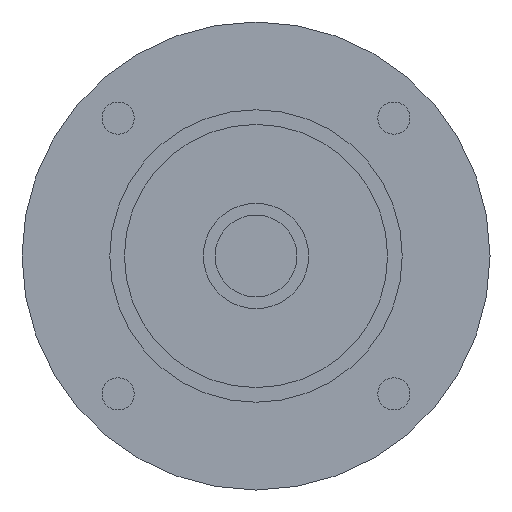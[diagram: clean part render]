
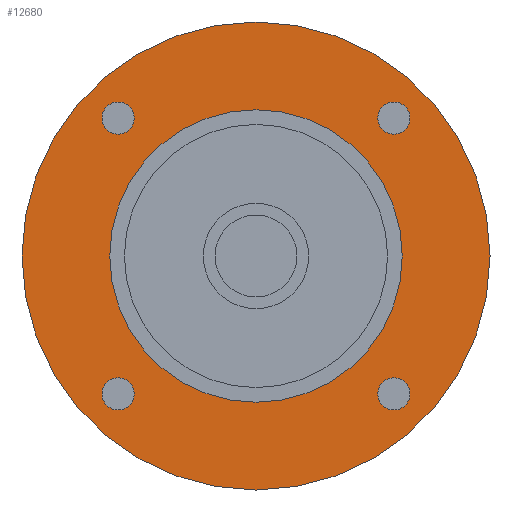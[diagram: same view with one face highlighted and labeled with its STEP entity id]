
A CAD part, left-side view. The second image highlights one B-rep face of the part: STEP entity #12680.
In plain terms, the highlighted planar face has unit normal (-1, 0, 0) as drawn and (0, 0, -1) by its records, which use the part's own axes.
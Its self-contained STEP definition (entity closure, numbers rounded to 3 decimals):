
#9250=CARTESIAN_POINT('',(23.571,-26.321,-42.2));
#9260=VERTEX_POINT('',#9250);
#9290=CARTESIAN_POINT('',(23.571,-23.571,-42.2));
#9300=DIRECTION('',(0.,0.,1.));
#9310=DIRECTION('',(0.,-1.,0.));
#9320=AXIS2_PLACEMENT_3D('',#9290,#9300,#9310);
#9330=CIRCLE('',#9320,2.75);
#9340=CARTESIAN_POINT('',(23.571,-20.821,-42.2));
#9350=VERTEX_POINT('',#9340);
#9360=EDGE_CURVE('',#9260,#9350,#9330,.T.);
#11700=CARTESIAN_POINT('',(-40.,0.,-42.2));
#11710=VERTEX_POINT('',#11700);
#11740=CARTESIAN_POINT('',(0.,0.,
-42.2));
#11750=DIRECTION('',(0.,0.,-1.));
#11760=DIRECTION('',(1.,0.,0.));
#11770=AXIS2_PLACEMENT_3D('',#11740,#11750,#11760);
#11780=CIRCLE('',#11770,40.);
#11790=CARTESIAN_POINT('',(40.,0.,-42.2));
#11800=VERTEX_POINT('',#11790);
#11810=EDGE_CURVE('',#11710,#11800,#11780,.T.);
#11930=CARTESIAN_POINT('',(0.,0.,
-42.2));
#11940=DIRECTION('',(0.,0.,1.));
#11950=DIRECTION('',(1.,0.,0.));
#11960=AXIS2_PLACEMENT_3D('',#11930,#11940,#11950);
#11970=PLANE('',#11960);
#11980=CARTESIAN_POINT('',(23.571,23.571,-42.2));
#11990=DIRECTION('',(0.,0.,1.));
#12000=DIRECTION('',(0.,-1.,0.));
#12010=AXIS2_PLACEMENT_3D('',#11980,#11990,#12000);
#12020=CIRCLE('',#12010,2.75);
#12030=CARTESIAN_POINT('',(23.571,20.821,-42.2));
#12040=VERTEX_POINT('',#12030);
#12050=CARTESIAN_POINT('',(23.571,26.321,-42.2));
#12060=VERTEX_POINT('',#12050);
#12070=EDGE_CURVE('',#12040,#12060,#12020,.T.);
#12080=ORIENTED_EDGE('',*,*,#12070,.T.);
#12090=EDGE_CURVE('',#12060,#12040,#12020,.T.);
#12100=ORIENTED_EDGE('',*,*,#12090,.T.);
#12110=EDGE_LOOP('',(#12100,#12080));
#12120=FACE_BOUND('',#12110,.T.);
#12130=CARTESIAN_POINT('',(-23.571,23.571,-42.2));
#12140=DIRECTION('',(0.,0.,1.));
#12150=DIRECTION('',(0.,-1.,0.));
#12160=AXIS2_PLACEMENT_3D('',#12130,#12140,#12150);
#12170=CIRCLE('',#12160,2.75);
#12180=CARTESIAN_POINT('',(-23.571,20.821,-42.2));
#12190=VERTEX_POINT('',#12180);
#12200=CARTESIAN_POINT('',(-23.571,26.321,-42.2));
#12210=VERTEX_POINT('',#12200);
#12220=EDGE_CURVE('',#12190,#12210,#12170,.T.);
#12230=ORIENTED_EDGE('',*,*,#12220,.T.);
#12240=EDGE_CURVE('',#12210,#12190,#12170,.T.);
#12250=ORIENTED_EDGE('',*,*,#12240,.T.);
#12260=EDGE_LOOP('',(#12250,#12230));
#12270=FACE_BOUND('',#12260,.T.);
#12280=CARTESIAN_POINT('',(-23.571,-23.571,-42.2));
#12290=DIRECTION('',(0.,0.,1.));
#12300=DIRECTION('',(0.,-1.,0.));
#12310=AXIS2_PLACEMENT_3D('',#12280,#12290,#12300);
#12320=CIRCLE('',#12310,2.75);
#12330=CARTESIAN_POINT('',(-23.571,-26.321,-42.2));
#12340=VERTEX_POINT('',#12330);
#12350=CARTESIAN_POINT('',(-23.571,-20.821,-42.2));
#12360=VERTEX_POINT('',#12350);
#12370=EDGE_CURVE('',#12340,#12360,#12320,.T.);
#12380=ORIENTED_EDGE('',*,*,#12370,.T.);
#12390=EDGE_CURVE('',#12360,#12340,#12320,.T.);
#12400=ORIENTED_EDGE('',*,*,#12390,.T.);
#12410=EDGE_LOOP('',(#12400,#12380));
#12420=FACE_BOUND('',#12410,.T.);
#12430=CARTESIAN_POINT('',(0.,0.,
-42.2));
#12440=DIRECTION('',(0.,0.,1.));
#12450=DIRECTION('',(1.,0.,0.));
#12460=AXIS2_PLACEMENT_3D('',#12430,#12440,#12450);
#12470=CIRCLE('',#12460,25.);
#12480=CARTESIAN_POINT('',(25.,0.,-42.2));
#12490=VERTEX_POINT('',#12480);
#12500=CARTESIAN_POINT('',(-25.,0.,-42.2));
#12510=VERTEX_POINT('',#12500);
#12520=EDGE_CURVE('',#12490,#12510,#12470,.T.);
#12530=ORIENTED_EDGE('',*,*,#12520,.T.);
#12540=EDGE_CURVE('',#12510,#12490,#12470,.T.);
#12550=ORIENTED_EDGE('',*,*,#12540,.T.);
#12560=EDGE_LOOP('',(#12550,#12530));
#12570=FACE_BOUND('',#12560,.T.);
#12580=ORIENTED_EDGE('',*,*,#9360,.T.);
#12590=EDGE_CURVE('',#9350,#9260,#9330,.T.);
#12600=ORIENTED_EDGE('',*,*,#12590,.T.);
#12610=EDGE_LOOP('',(#12600,#12580));
#12620=FACE_BOUND('',#12610,.T.);
#12630=EDGE_CURVE('',#11800,#11710,#11780,.T.);
#12640=ORIENTED_EDGE('',*,*,#12630,.T.);
#12650=ORIENTED_EDGE('',*,*,#11810,.T.);
#12660=EDGE_LOOP('',(#12650,#12640));
#12670=FACE_OUTER_BOUND('',#12660,.T.);
#12680=ADVANCED_FACE('',(#12120,#12270,#12420,#12570,#12620,#12670),
#11970,.F.);
